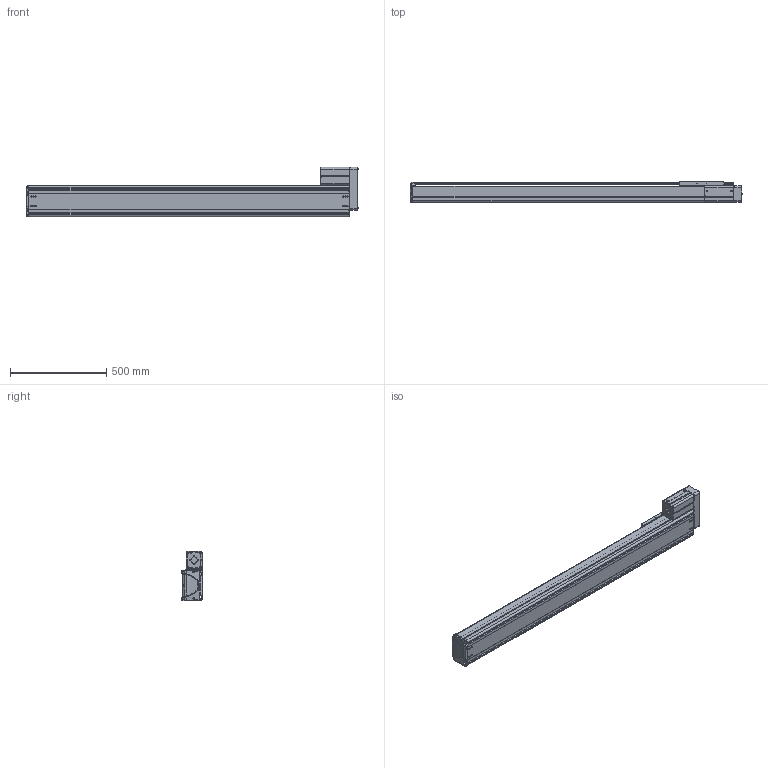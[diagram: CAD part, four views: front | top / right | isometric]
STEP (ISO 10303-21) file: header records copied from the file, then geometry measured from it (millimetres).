
FILE_DESCRIPTION((''),'2;1');
FILE_NAME('BE50F-UR-L_N-D5_IGS_PRT','2017-06-18T',(' '),(''),'PRO/ENGINEER BY PARAMETRIC TECHNOLOGY CORPORATION, 2015030','PRO/ENGINEER BY PARAMETRIC TECHNOLOGY CORPORATION, 2015030','');
FILE_SCHEMA(('CONFIG_CONTROL_DESIGN'));
Length unit declared in the file: millimetre
Products named in the file (1): BE50F-UR-L_N-D5_IGS_PRT
Bounding box: 1725.88 x 110 x 257 mm (x, y, z)
Volume: 6684477.4 mm3; surface area: 2831044.6 mm2
Topology: 7 solids, 163 shells, 2368 faces, 6534 edges, 4287 vertices
Faces by surface type: cylinder 1058, plane 1018, cone 153, torus 59, bspline 48, sphere 32
Entity records: 79415 total; most frequent: CARTESIAN_POINT 18518, DIRECTION 12655, ORIENTED_EDGE 12407, EDGE_CURVE 6488, AXIS2_PLACEMENT_3D 4542, VERTEX_POINT 4283, VECTOR 3571, LINE 3571
